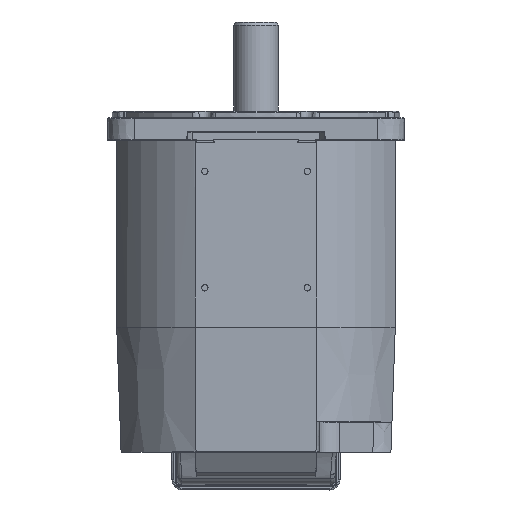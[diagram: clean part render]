
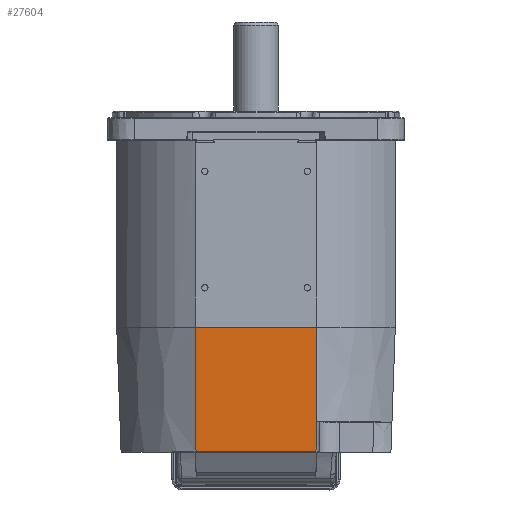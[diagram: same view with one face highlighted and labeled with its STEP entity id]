
A CAD part, top view. The second image highlights one B-rep face of the part: STEP entity #27604.
In plain terms, the highlighted planar face has unit normal (0, -0.035, 0.999).
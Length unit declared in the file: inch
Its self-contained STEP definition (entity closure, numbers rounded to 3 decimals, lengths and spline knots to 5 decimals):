
#2301 = VERTEX_POINT ( 'NONE', #57008 ) ;
#3279 = CARTESIAN_POINT ( 'NONE',  ( 1.47645, -3.34092, 3.31902 ) ) ;
#3337 = CARTESIAN_POINT ( 'NONE',  ( 1.49909, -0.26545, 3.42642 ) ) ;
#4298 = CARTESIAN_POINT ( 'NONE',  ( 1.48193, -2.60082, 3.34487 ) ) ;
#4788 = DIRECTION ( 'NONE',  ( 0., -0.035, 0.999 ) ) ;
#7220 = EDGE_CURVE ( 'NONE', #32330, #59632, #24640, .T. ) ;
#7708 = DIRECTION ( 'NONE',  ( 1., 0., 0. ) ) ;
#11758 = CARTESIAN_POINT ( 'NONE',  ( 1.49909, -0.26545, 3.42642 ) ) ;
#16815 = CARTESIAN_POINT ( 'NONE',  ( -1.47645, -3.34092, 3.31902 ) ) ;
#16926 = CARTESIAN_POINT ( 'NONE',  ( -1.49909, -0.26545, 3.42642 ) ) ;
#18882 = CARTESIAN_POINT ( 'NONE',  ( 1.48193, -2.60082, 3.34487 ) ) ;
#19931 = EDGE_CURVE ( 'NONE', #32330, #2301, #45076, .T. ) ;
#24640 = B_SPLINE_CURVE_WITH_KNOTS ( 'NONE', 3,
 ( #94699, #80421, #48327, #96718 ),
 .UNSPECIFIED., .F., .F.,
 ( 4, 4 ),
 ( 0.24215, 0.32031 ),
 .UNSPECIFIED. ) ;
#26172 = ORIENTED_EDGE ( 'NONE', *, *, #46037, .T. ) ;
#27604 = ADVANCED_FACE ( 'NONE', ( #52150 ), #59756, .T. ) ;
#30547 = B_SPLINE_CURVE_WITH_KNOTS ( 'NONE', 3,
 ( #3279, #34442, #65406, #43502 ),
 .UNSPECIFIED., .F., .F.,
 ( 4, 4 ),
 ( 0.24215, 0.26096 ),
 .UNSPECIFIED. ) ;
#31077 = AXIS2_PLACEMENT_3D ( 'NONE', #75056, #4788, #35420 ) ;
#32330 = VERTEX_POINT ( 'NONE', #16815 ) ;
#34442 = CARTESIAN_POINT ( 'NONE',  ( 1.47828, -3.09422, 3.32764 ) ) ;
#35420 = DIRECTION ( 'NONE',  ( 0., -0.999, -0.035 ) ) ;
#43502 = CARTESIAN_POINT ( 'NONE',  ( 1.48193, -2.60082, 3.34487 ) ) ;
#44274 = ORIENTED_EDGE ( 'NONE', *, *, #7220, .F. ) ;
#45076 = LINE ( 'NONE', #68481, #55700 ) ;
#46037 = EDGE_CURVE ( 'NONE', #2301, #57434, #30547, .T. ) ;
#46379 = EDGE_CURVE ( 'NONE', #57434, #54592, #55905, .T. ) ;
#48327 = CARTESIAN_POINT ( 'NONE',  ( -1.4916, -1.29061, 3.39062 ) ) ;
#52150 = FACE_OUTER_BOUND ( 'NONE', #89230, .T. ) ;
#54592 = VERTEX_POINT ( 'NONE', #3337 ) ;
#55700 = VECTOR ( 'NONE', #69508, 39.37008 ) ;
#55905 = B_SPLINE_CURVE_WITH_KNOTS ( 'NONE', 3,
 ( #18882, #59025, #73822, #11758 ),
 .UNSPECIFIED., .F., .F.,
 ( 4, 4 ),
 ( 0.26096, 0.32031 ),
 .UNSPECIFIED. ) ;
#57008 = CARTESIAN_POINT ( 'NONE',  ( 1.47645, -3.34092, 3.31902 ) ) ;
#57434 = VERTEX_POINT ( 'NONE', #4298 ) ;
#57697 = ORIENTED_EDGE ( 'NONE', *, *, #83377, .F. ) ;
#59025 = CARTESIAN_POINT ( 'NONE',  ( 1.48768, -1.82236, 3.37205 ) ) ;
#59632 = VERTEX_POINT ( 'NONE', #69237 ) ;
#59756 = PLANE ( 'NONE',  #31077 ) ;
#65406 = CARTESIAN_POINT ( 'NONE',  ( 1.4801, -2.84752, 3.33625 ) ) ;
#68481 = CARTESIAN_POINT ( 'NONE',  ( -1.49909, -3.34092, 3.31902 ) ) ;
#69237 = CARTESIAN_POINT ( 'NONE',  ( -1.49909, -0.26545, 3.42642 ) ) ;
#69508 = DIRECTION ( 'NONE',  ( 1., 0., 0. ) ) ;
#73408 = ORIENTED_EDGE ( 'NONE', *, *, #19931, .T. ) ;
#73822 = CARTESIAN_POINT ( 'NONE',  ( 1.4934, -1.04391, 3.39923 ) ) ;
#74150 = ORIENTED_EDGE ( 'NONE', *, *, #46379, .T. ) ;
#75056 = CARTESIAN_POINT ( 'NONE',  ( -1.49909, -0.26545, 3.42642 ) ) ;
#80421 = CARTESIAN_POINT ( 'NONE',  ( -1.48405, -2.31576, 3.35482 ) ) ;
#83377 = EDGE_CURVE ( 'NONE', #59632, #54592, #86171, .T. ) ;
#86171 = LINE ( 'NONE', #16926, #91224 ) ;
#89230 = EDGE_LOOP ( 'NONE', ( #44274, #73408, #26172, #74150, #57697 ) ) ;
#91224 = VECTOR ( 'NONE', #7708, 39.37008 ) ;
#94699 = CARTESIAN_POINT ( 'NONE',  ( -1.47645, -3.34092, 3.31902 ) ) ;
#96718 = CARTESIAN_POINT ( 'NONE',  ( -1.49909, -0.26545, 3.42642 ) ) ;
